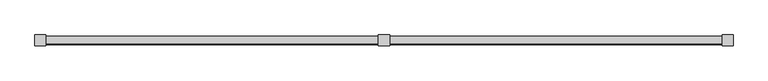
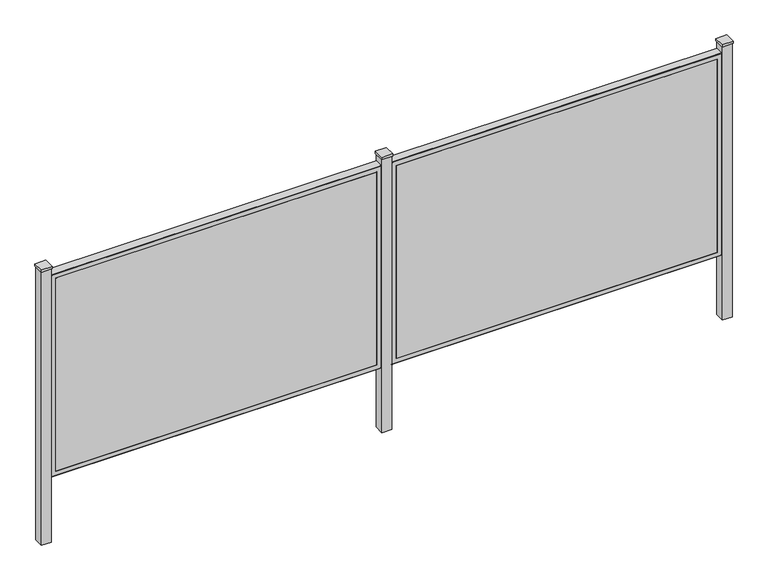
"""IFC4 building model written with IfcOpenShell, lengths in millimetres: proxy geometry, VIVA-Railings_Special-Equipment_Architectural-Fence-&-Landscape-Screens : 68” x 44” - Steel 0.078''."""

from ifc_helpers import new_model, si_unit, frame, origin, place, context, project, spatial, polyline, ellipse_curve, outline, extrude, source, transform, mapped, element, save
from ifc_brep_helpers import plane_surface, cylinder_surface, revolved_surface, advanced_brep


def specialty_equipment_3f2b97c9(model_context):
    return source(origin(), model_context, "Body", "SolidModel", [
        extrude(outline(polyline([(3613.15, -28.575), (3556.0, -28.575), (3556.0, 28.575), (3613.15, 28.575), (3613.15, -28.575)])), frame((0.0, 0.0, 1206.5), z_axis=(0.0, 0.0, 1.0), x_axis=(1.0, 0.0, 0.0)), (0.0, 0.0, 1.0), 12.7),
        extrude(outline(polyline([(3559.175, 25.4), (3609.975, 25.4), (3609.975, -25.4), (3559.175, -25.4), (3559.175, 25.4)]), holes=[polyline([(3561.1562, -23.4188), (3607.9938, -23.4188), (3607.9938, 23.4188), (3561.1562, 23.4188), (3561.1562, -23.4188)])]), frame((0.0, 0.0, -304.8), z_axis=(0.0, 0.0, 1.0), x_axis=(1.0, 0.0, 0.0)), (0.0, 0.0, 1.0), 1511.3),
        advanced_brep(
        [(3559.175, 22.225, 1168.425), (3559.175, -20.2438, 1168.425), (3559.175, -20.2438, 50.825), (3559.175, 22.225, 50.825), (3557.1938, -18.6563, 1166.4438), (3557.1938, 22.225, 1166.4438), (3557.1938, 22.225, 52.8062), (3557.1938, -18.6563, 52.8062), (3555.6063, -20.2438, 1164.8563), (3555.6063, -20.2438, 54.3937), (3533.775, -22.225, 1143.025), (3533.775, -20.2438, 1143.025), (3533.775, -20.2438, 76.225), (3533.775, -22.225, 76.225), (3557.1938, -22.225, 1166.4438), (3557.1938, -22.225, 52.8062), (1831.975, -20.2438, 50.825), (1831.975, 22.225, 50.825), (1833.9562, 22.225, 52.8062), (1833.9562, -18.6563, 52.8062), (1835.5437, -20.2438, 54.3937), (1857.375, -20.2438, 76.225), (1857.375, -22.225, 76.225), (1833.9562, -22.225, 52.8062), (1831.975, -20.2438, 1168.425), (1831.975, 22.225, 1168.425), (1833.9562, 22.225, 1166.4438), (1833.9562, -18.6563, 1166.4438), (1835.5437, -20.2438, 1164.8563), (1857.375, -20.2438, 1143.025), (1857.375, -22.225, 1143.025), (1833.9562, -22.225, 1166.4438)],
        [
            (0, 1),
            (1, 2),
            (2, 3),
            (3, 0),
            (4, 5),
            (5, 6),
            (6, 7),
            (7, 4),
            (8, 4, ellipse_curve(frame((3555.6063, -18.6563, 1164.8563), z_axis=(-0.7071067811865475, 0.0, 0.7071067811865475), x_axis=(-0.7071067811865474, 0.0, -0.7071067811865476)), 2.245064, 1.5875)),
            (7, 9, ellipse_curve(frame((3555.6063, -18.6563, 54.3937), z_axis=(-0.7071067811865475, 0.0, -0.7071067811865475), x_axis=(0.7071067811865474, 0.0, -0.7071067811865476)), 2.245064, 1.5875)),
            (9, 8),
            (10, 11),
            (11, 12),
            (12, 13),
            (13, 10),
            (1, 14, ellipse_curve(frame((3557.1938, -20.2438, 1166.4438), z_axis=(0.7071067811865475, 0.0, -0.7071067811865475), x_axis=(0.7071067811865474, 0.0, 0.7071067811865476)), 2.8018399, 1.9812)),
            (14, 15),
            (15, 2, ellipse_curve(frame((3557.1938, -20.2438, 52.8062), z_axis=(0.7071067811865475, 0.0, 0.7071067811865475), x_axis=(-0.7071067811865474, 0.0, 0.7071067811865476)), 2.8018399, 1.9812)),
            (2, 16),
            (16, 17),
            (17, 3),
            (6, 18),
            (18, 19),
            (19, 7),
            (19, 20, ellipse_curve(frame((1835.5437, -18.6563, 54.3937), z_axis=(-0.7071067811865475, 0.0, 0.7071067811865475), x_axis=(-0.7071067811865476, 0.0, -0.7071067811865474)), 2.245064, 1.5875)),
            (20, 9),
            (12, 21),
            (21, 22),
            (22, 13),
            (15, 23),
            (23, 16, ellipse_curve(frame((1833.9562, -20.2438, 52.8062), z_axis=(0.7071067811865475, 0.0, -0.7071067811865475), x_axis=(0.7071067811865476, 0.0, 0.7071067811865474)), 2.8018399, 1.9812)),
            (16, 24),
            (24, 25),
            (25, 17),
            (18, 26),
            (26, 27),
            (27, 19),
            (27, 28, ellipse_curve(frame((1835.5437, -18.6563, 1164.8563), z_axis=(0.7071067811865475, 0.0, 0.7071067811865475), x_axis=(-0.7071067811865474, 0.0, 0.7071067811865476)), 2.245064, 1.5875)),
            (28, 20),
            (21, 29),
            (29, 30),
            (30, 22),
            (23, 31),
            (31, 24, ellipse_curve(frame((1833.9562, -20.2438, 1166.4438), z_axis=(-0.7071067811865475, 0.0, -0.7071067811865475), x_axis=(0.7071067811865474, 0.0, -0.7071067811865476)), 2.8018399, 1.9812)),
            (24, 1),
            (0, 25),
            (5, 26),
            (4, 27),
            (8, 28),
            (11, 29),
            (10, 30),
            (14, 31),
        ],
        [
            plane_surface(frame((3559.175, -20.2438, 1168.425), z_axis=(1.0, 0.0, 0.0), x_axis=(0.0, 0.0, -1.0))),
            plane_surface(frame((3557.1938, 22.225, 1166.4438), z_axis=(-1.0, 0.0, 0.0), x_axis=(0.0, 0.0, -1.0))),
            revolved_surface(polyline([(3557.1938, -18.6563, 52.80619999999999), (3557.1938, -18.6563, 1166.4438)]), (3555.6063, -18.6563, 1168.425), (0.0, 0.0, -1.0)),
            plane_surface(frame((3533.775, -20.2438, 1143.025), z_axis=(-1.0, 0.0, 0.0), x_axis=(0.0, 0.0, -1.0))),
            cylinder_surface(frame((3557.1938, -20.2438, 1168.425), z_axis=(0.0, 0.0, 1.0), x_axis=(1.0, 0.0, 0.0)), 1.9812),
            plane_surface(frame((3559.175, -20.2438, 50.825), z_axis=(0.0, 0.0, -1.0), x_axis=(-1.0, 0.0, 0.0))),
            plane_surface(frame((3557.1938, 22.225, 52.8062), z_axis=(0.0, 0.0, 1.0), x_axis=(-1.0, 0.0, 0.0))),
            revolved_surface(polyline([(1833.9562, -18.6563, 52.806200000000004), (3557.1938, -18.6563, 52.806200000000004)]), (3559.175, -18.6563, 54.3937), (-1.0, 0.0, 0.0)),
            plane_surface(frame((3533.775, -20.2438, 76.225), z_axis=(0.0, 0.0, 1.0), x_axis=(-1.0, 0.0, 0.0))),
            cylinder_surface(frame((3559.175, -20.2438, 52.8062), z_axis=(1.0, 0.0, 0.0), x_axis=(0.0, 0.0, -1.0)), 1.9812),
            plane_surface(frame((1831.975, -20.2438, 50.825), z_axis=(-1.0, 0.0, 0.0), x_axis=(0.0, 0.0, 1.0))),
            plane_surface(frame((1833.9562, 22.225, 52.8062), z_axis=(1.0, 0.0, 0.0), x_axis=(0.0, 0.0, 1.0))),
            revolved_surface(polyline([(1833.9561999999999, -18.6563, 1166.4438), (1833.9561999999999, -18.6563, 52.8062)]), (1835.5437, -18.6563, 50.825), (0.0, 0.0, 1.0)),
            plane_surface(frame((1857.375, -20.2438, 76.225), z_axis=(1.0, 0.0, 0.0), x_axis=(0.0, 0.0, 1.0))),
            cylinder_surface(frame((1833.9562, -20.2438, 50.825), z_axis=(0.0, 0.0, -1.0), x_axis=(-1.0, 0.0, 0.0)), 1.9812),
            plane_surface(frame((1831.975, -20.2438, 1168.425), z_axis=(0.0, 0.0, 1.0), x_axis=(1.0, 0.0, 0.0))),
            plane_surface(frame((1831.975, 22.225, 1168.425), z_axis=(0.0, 1.0, 0.0), x_axis=(1.0, 0.0, 0.0))),
            plane_surface(frame((1833.9562, 22.225, 1166.4438), z_axis=(0.0, 0.0, -1.0), x_axis=(1.0, 0.0, 0.0))),
            revolved_surface(polyline([(3557.1938, -18.6563, 1166.4438), (1833.9562, -18.6563, 1166.4438)]), (1831.975, -18.6563, 1164.8563), (1.0, 0.0, 0.0)),
            plane_surface(frame((1835.5437, -20.2438, 1164.8563), z_axis=(0.0, 1.0, 0.0), x_axis=(1.0, 0.0, 0.0))),
            plane_surface(frame((1857.375, -20.2438, 1143.025), z_axis=(0.0, 0.0, -1.0), x_axis=(1.0, 0.0, 0.0))),
            plane_surface(frame((1857.375, -22.225, 1143.025), z_axis=(0.0, -1.0, 0.0), x_axis=(1.0, 0.0, 0.0))),
            cylinder_surface(frame((1831.975, -20.2438, 1166.4438), z_axis=(-1.0, 0.0, 0.0), x_axis=(0.0, 0.0, 1.0)), 1.9812),
        ],
        [
            (0, [[1, 2, 3, 4]]),
            (1, [[5, 6, 7, 8]]),
            (2, [[9, -8, 10, 11]]),
            (3, [[12, 13, 14, 15]]),
            (4, [[16, 17, 18, -2]]),
            (5, [[-3, 19, 20, 21]]),
            (6, [[-7, 22, 23, 24]]),
            (7, [[-10, -24, 25, 26]]),
            (8, [[-14, 27, 28, 29]]),
            (9, [[-18, 30, 31, -19]]),
            (10, [[-20, 32, 33, 34]]),
            (11, [[-23, 35, 36, 37]]),
            (12, [[-25, -37, 38, 39]]),
            (13, [[-28, 40, 41, 42]]),
            (14, [[-31, 43, 44, -32]]),
            (15, [[-33, 45, -1, 46]]),
            (16, [[-21, -34, -46, -4], [47, -35, -22, -6]]),
            (17, [[-36, -47, -5, 48]]),
            (18, [[-38, -48, -9, 49]]),
            (19, [[-26, -39, -49, -11], [50, -40, -27, -13]]),
            (20, [[-41, -50, -12, 51]]),
            (21, [[52, -43, -30, -17], [-29, -42, -51, -15]]),
            (22, [[-44, -52, -16, -45]]),
        ],
    ),
        advanced_brep(
        [(1781.175, 22.225, 1168.425), (1781.175, -20.2438, 1168.425), (1781.175, -20.2438, 50.825), (1781.175, 22.225, 50.825), (1779.1938, -18.6563, 1166.4438), (1779.1938, 22.225, 1166.4438), (1779.1938, 22.225, 52.8062), (1779.1938, -18.6563, 52.8062), (1777.6063, -20.2438, 1164.8563), (1777.6063, -20.2438, 54.3937), (1755.775, -22.225, 1143.025), (1755.775, -20.2438, 1143.025), (1755.775, -20.2438, 76.225), (1755.775, -22.225, 76.225), (1779.1938, -22.225, 1166.4438), (1779.1938, -22.225, 52.8062), (53.975, -20.2438, 50.825), (53.975, 22.225, 50.825), (55.9562, 22.225, 52.8062), (55.9562, -18.6563, 52.8062), (57.5437, -20.2438, 54.3937), (79.375, -20.2438, 76.225), (79.375, -22.225, 76.225), (55.9562, -22.225, 52.8062), (53.975, -20.2438, 1168.425), (53.975, 22.225, 1168.425), (55.9562, 22.225, 1166.4438), (55.9562, -18.6563, 1166.4438), (57.5437, -20.2438, 1164.8563), (79.375, -20.2438, 1143.025), (79.375, -22.225, 1143.025), (55.9562, -22.225, 1166.4438)],
        [
            (0, 1),
            (1, 2),
            (2, 3),
            (3, 0),
            (4, 5),
            (5, 6),
            (6, 7),
            (7, 4),
            (8, 4, ellipse_curve(frame((1777.6063, -18.6563, 1164.8563), z_axis=(-0.7071067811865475, 0.0, 0.7071067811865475), x_axis=(-0.7071067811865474, 0.0, -0.7071067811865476)), 2.245064, 1.5875)),
            (7, 9, ellipse_curve(frame((1777.6063, -18.6563, 54.3937), z_axis=(-0.7071067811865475, 0.0, -0.7071067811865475), x_axis=(0.7071067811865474, 0.0, -0.7071067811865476)), 2.245064, 1.5875)),
            (9, 8),
            (10, 11),
            (11, 12),
            (12, 13),
            (13, 10),
            (1, 14, ellipse_curve(frame((1779.1938, -20.2438, 1166.4438), z_axis=(0.7071067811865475, 0.0, -0.7071067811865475), x_axis=(0.7071067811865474, 0.0, 0.7071067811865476)), 2.8018399, 1.9812)),
            (14, 15),
            (15, 2, ellipse_curve(frame((1779.1938, -20.2438, 52.8062), z_axis=(0.7071067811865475, 0.0, 0.7071067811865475), x_axis=(-0.7071067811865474, 0.0, 0.7071067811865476)), 2.8018399, 1.9812)),
            (2, 16),
            (16, 17),
            (17, 3),
            (6, 18),
            (18, 19),
            (19, 7),
            (19, 20, ellipse_curve(frame((57.5437, -18.6563, 54.3937), z_axis=(-0.7071067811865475, 0.0, 0.7071067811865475), x_axis=(-0.7071067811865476, 0.0, -0.7071067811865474)), 2.245064, 1.5875)),
            (20, 9),
            (12, 21),
            (21, 22),
            (22, 13),
            (15, 23),
            (23, 16, ellipse_curve(frame((55.9562, -20.2438, 52.8062), z_axis=(0.7071067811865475, 0.0, -0.7071067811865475), x_axis=(0.7071067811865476, 0.0, 0.7071067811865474)), 2.8018399, 1.9812)),
            (16, 24),
            (24, 25),
            (25, 17),
            (18, 26),
            (26, 27),
            (27, 19),
            (27, 28, ellipse_curve(frame((57.5437, -18.6563, 1164.8563), z_axis=(0.7071067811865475, 0.0, 0.7071067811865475), x_axis=(-0.7071067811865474, 0.0, 0.7071067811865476)), 2.245064, 1.5875)),
            (28, 20),
            (21, 29),
            (29, 30),
            (30, 22),
            (23, 31),
            (31, 24, ellipse_curve(frame((55.9562, -20.2438, 1166.4438), z_axis=(-0.7071067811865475, 0.0, -0.7071067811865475), x_axis=(0.7071067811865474, 0.0, -0.7071067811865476)), 2.8018399, 1.9812)),
            (24, 1),
            (0, 25),
            (5, 26),
            (4, 27),
            (8, 28),
            (11, 29),
            (10, 30),
            (14, 31),
        ],
        [
            plane_surface(frame((1781.175, -20.2438, 1168.425), z_axis=(1.0, 0.0, 0.0), x_axis=(0.0, 0.0, -1.0))),
            plane_surface(frame((1779.1938, 22.225, 1166.4438), z_axis=(-1.0, 0.0, 0.0), x_axis=(0.0, 0.0, -1.0))),
            revolved_surface(polyline([(1779.1938, -18.6563, 52.80619999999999), (1779.1938, -18.6563, 1166.4438)]), (1777.6063, -18.6563, 1168.425), (0.0, 0.0, -1.0)),
            plane_surface(frame((1755.775, -20.2438, 1143.025), z_axis=(-1.0, 0.0, 0.0), x_axis=(0.0, 0.0, -1.0))),
            cylinder_surface(frame((1779.1938, -20.2438, 1168.425), z_axis=(0.0, 0.0, 1.0), x_axis=(1.0, 0.0, 0.0)), 1.9812),
            plane_surface(frame((1781.175, -20.2438, 50.825), z_axis=(0.0, 0.0, -1.0), x_axis=(-1.0, 0.0, 0.0))),
            plane_surface(frame((1779.1938, 22.225, 52.8062), z_axis=(0.0, 0.0, 1.0), x_axis=(-1.0, 0.0, 0.0))),
            revolved_surface(polyline([(55.95620000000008, -18.6563, 52.806200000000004), (1779.1938, -18.6563, 52.806200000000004)]), (1781.175, -18.6563, 54.3937), (-1.0, 0.0, 0.0)),
            plane_surface(frame((1755.775, -20.2438, 76.225), z_axis=(0.0, 0.0, 1.0), x_axis=(-1.0, 0.0, 0.0))),
            cylinder_surface(frame((1781.175, -20.2438, 52.8062), z_axis=(1.0, 0.0, 0.0), x_axis=(0.0, 0.0, -1.0)), 1.9812),
            plane_surface(frame((53.975, -20.2438, 50.825), z_axis=(-1.0, 0.0, 0.0), x_axis=(0.0, 0.0, 1.0))),
            plane_surface(frame((55.9562, 22.225, 52.8062), z_axis=(1.0, 0.0, 0.0), x_axis=(0.0, 0.0, 1.0))),
            revolved_surface(polyline([(55.9562, -18.6563, 1166.4438), (55.9562, -18.6563, 52.8062)]), (57.5437, -18.6563, 50.825), (0.0, 0.0, 1.0)),
            plane_surface(frame((79.375, -20.2438, 76.225), z_axis=(1.0, 0.0, 0.0), x_axis=(0.0, 0.0, 1.0))),
            cylinder_surface(frame((55.9562, -20.2438, 50.825), z_axis=(0.0, 0.0, -1.0), x_axis=(-1.0, 0.0, 0.0)), 1.9812),
            plane_surface(frame((53.975, -20.2438, 1168.425), z_axis=(0.0, 0.0, 1.0), x_axis=(1.0, 0.0, 0.0))),
            plane_surface(frame((53.975, 22.225, 1168.425), z_axis=(0.0, 1.0, 0.0), x_axis=(1.0, 0.0, 0.0))),
            plane_surface(frame((55.9562, 22.225, 1166.4438), z_axis=(0.0, 0.0, -1.0), x_axis=(1.0, 0.0, 0.0))),
            revolved_surface(polyline([(1779.1938, -18.6563, 1166.4438), (55.9562, -18.6563, 1166.4438)]), (53.975, -18.6563, 1164.8563), (1.0, 0.0, 0.0)),
            plane_surface(frame((57.5437, -20.2438, 1164.8563), z_axis=(0.0, 1.0, 0.0), x_axis=(1.0, 0.0, 0.0))),
            plane_surface(frame((79.375, -20.2438, 1143.025), z_axis=(0.0, 0.0, -1.0), x_axis=(1.0, 0.0, 0.0))),
            plane_surface(frame((79.375, -22.225, 1143.025), z_axis=(0.0, -1.0, 0.0), x_axis=(1.0, 0.0, 0.0))),
            cylinder_surface(frame((53.975, -20.2438, 1166.4438), z_axis=(-1.0, 0.0, 0.0), x_axis=(0.0, 0.0, 1.0)), 1.9812),
        ],
        [
            (0, [[1, 2, 3, 4]]),
            (1, [[5, 6, 7, 8]]),
            (2, [[9, -8, 10, 11]]),
            (3, [[12, 13, 14, 15]]),
            (4, [[16, 17, 18, -2]]),
            (5, [[-3, 19, 20, 21]]),
            (6, [[-7, 22, 23, 24]]),
            (7, [[-10, -24, 25, 26]]),
            (8, [[-14, 27, 28, 29]]),
            (9, [[-18, 30, 31, -19]]),
            (10, [[-20, 32, 33, 34]]),
            (11, [[-23, 35, 36, 37]]),
            (12, [[-25, -37, 38, 39]]),
            (13, [[-28, 40, 41, 42]]),
            (14, [[-31, 43, 44, -32]]),
            (15, [[-33, 45, -1, 46]]),
            (16, [[-21, -34, -46, -4], [47, -35, -22, -6]]),
            (17, [[-36, -47, -5, 48]]),
            (18, [[-38, -48, -9, 49]]),
            (19, [[-26, -39, -49, -11], [50, -40, -27, -13]]),
            (20, [[-41, -50, -12, 51]]),
            (21, [[52, -43, -30, -17], [-29, -42, -51, -15]]),
            (22, [[-44, -52, -16, -45]]),
        ],
    ),
        extrude(outline(polyline([(3533.775, -22.225), (1857.375, -22.225), (1857.375, -20.2438), (3533.775, -20.2438), (3533.775, -22.225)])), frame((0.0, 0.0, 76.225), z_axis=(0.0, 0.0, 1.0), x_axis=(1.0, 0.0, 0.0)), (0.0, 0.0, 1.0), 1066.8),
        extrude(outline(polyline([(1755.775, -22.225), (79.375, -22.225), (79.375, -20.2438), (1755.775, -20.2438), (1755.775, -22.225)])), frame((0.0, 0.0, 76.225), z_axis=(0.0, 0.0, 1.0), x_axis=(1.0, 0.0, 0.0)), (0.0, 0.0, 1.0), 1066.8),
        extrude(outline(polyline([(1835.15, -28.575), (1778.0, -28.575), (1778.0, 28.575), (1835.15, 28.575), (1835.15, -28.575)])), frame((0.0, 0.0, 1206.5), z_axis=(0.0, 0.0, 1.0), x_axis=(1.0, 0.0, 0.0)), (0.0, 0.0, 1.0), 12.7),
        extrude(outline(polyline([(1781.175, 25.4), (1831.975, 25.4), (1831.975, -25.4), (1781.175, -25.4), (1781.175, 25.4)]), holes=[polyline([(1783.1562, -23.4188), (1829.9938, -23.4188), (1829.9938, 23.4188), (1783.1562, 23.4188), (1783.1562, -23.4188)])]), frame((0.0, 0.0, -304.8), z_axis=(0.0, 0.0, 1.0), x_axis=(1.0, 0.0, 0.0)), (0.0, 0.0, 1.0), 1511.3),
        extrude(outline(polyline([(57.15, -28.575), (0.0, -28.575), (0.0, 28.575), (57.15, 28.575), (57.15, -28.575)])), frame((0.0, 0.0, 1206.5), z_axis=(0.0, 0.0, 1.0), x_axis=(1.0, 0.0, 0.0)), (0.0, 0.0, 1.0), 12.7),
        extrude(outline(polyline([(3.175, 25.4), (53.975, 25.4), (53.975, -25.4), (3.175, -25.4), (3.175, 25.4)]), holes=[polyline([(5.1562, -23.4188), (51.9938, -23.4188), (51.9938, 23.4188), (5.1562, 23.4188), (5.1562, -23.4188)])]), frame((0.0, 0.0, -304.8), z_axis=(0.0, 0.0, 1.0), x_axis=(1.0, 0.0, 0.0)), (0.0, 0.0, 1.0), 1511.3),
    ])


if __name__ == "__main__":
    model = new_model("IFC4")
    model_context = context("Model", 3, world=origin())
    ifc_project = project(units=[si_unit("LENGTHUNIT", "METRE", prefix="MILLI")], contexts=[model_context])
    site = spatial("IfcSite", under=ifc_project)
    building = spatial("IfcBuilding", under=site)
    placement = place(None, origin())
    specialty_equipment_shape = specialty_equipment_3f2b97c9(model_context)
    element("IfcBuildingElementProxy", 1, Name="VIVA-Railings_Special-Equipment_Architectural-Fence-&-Landscape-Screens : 68” x 44” - Steel 0.078''", ObjectType="VIVA-Railings_Special-Equipment_Architectural-Fence-&-Landscape-Screens : 68” x 44” - Steel 0.078''", at=placement, inside=building, context=model_context, shape_type="MappedRepresentation", body=[
        mapped(specialty_equipment_shape, transform((0.0, 0.0, 0.0), x_axis=(1.0, 0.0, 0.0), y_axis=(0.0, 1.0, 0.0), z_axis=(0.0, 0.0, 1.0))),
    ])
    save(model, "model.ifc")
